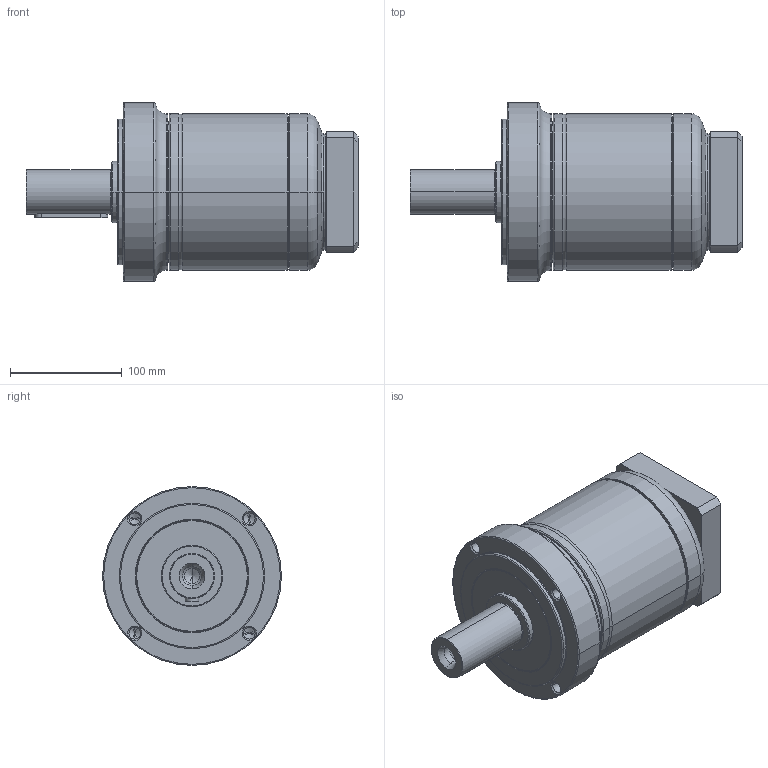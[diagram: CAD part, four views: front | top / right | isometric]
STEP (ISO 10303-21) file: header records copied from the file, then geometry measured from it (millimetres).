
FILE_DESCRIPTION((''),'2;1');
FILE_NAME('PG2-160_2ST_28-P0411600101_ASM','2016-04-13T',('d01943'),(''),'PRO/ENGINEER BY PARAMETRIC TECHNOLOGY CORPORATION, 2008410','PRO/ENGINEER BY PARAMETRIC TECHNOLOGY CORPORATION, 2008410','');
FILE_SCHEMA(('CONFIG_CONTROL_DESIGN'));
Length unit declared in the file: millimetre
Products named in the file (9): P1325510001; P0251500001; P1324500201; P0350501103; P0941502001; P0503600008; P0411600101; P1702500001; PG2-160_2ST_28-P0411600101_ASM
Assembly tree (8 placements, depth 2):
  PG2-160_2ST_28-P0411600101_ASM
    P1325510001
    P0251500001
    P1324500201
    P0350501103
    P0941502001
    P0503600008
    P0411600101
    P1702500001
Bounding box: 297 x 160 x 160 mm (x, y, z)
Volume: 2326672.1 mm3; surface area: 341801.7 mm2
Topology: 8 solids, 9 shells, 489 faces, 1074 edges, 615 vertices
Faces by surface type: cone 146, cylinder 146, torus 102, plane 79, bspline 16
Entity records: 17934 total; most frequent: CARTESIAN_POINT 6954, DIRECTION 2508, ORIENTED_EDGE 2080, AXIS2_PLACEMENT_3D 1076, EDGE_CURVE 1040, VERTEX_POINT 615, CIRCLE 586, EDGE_LOOP 553
